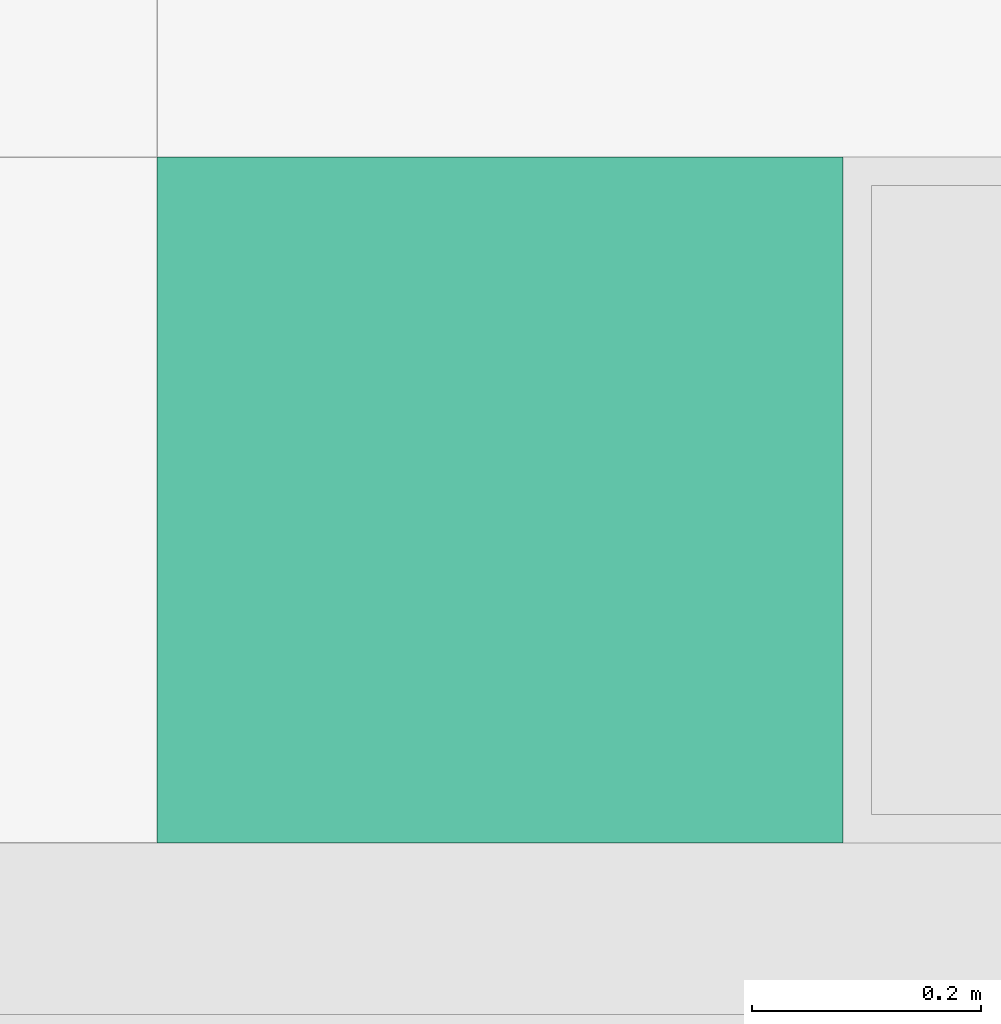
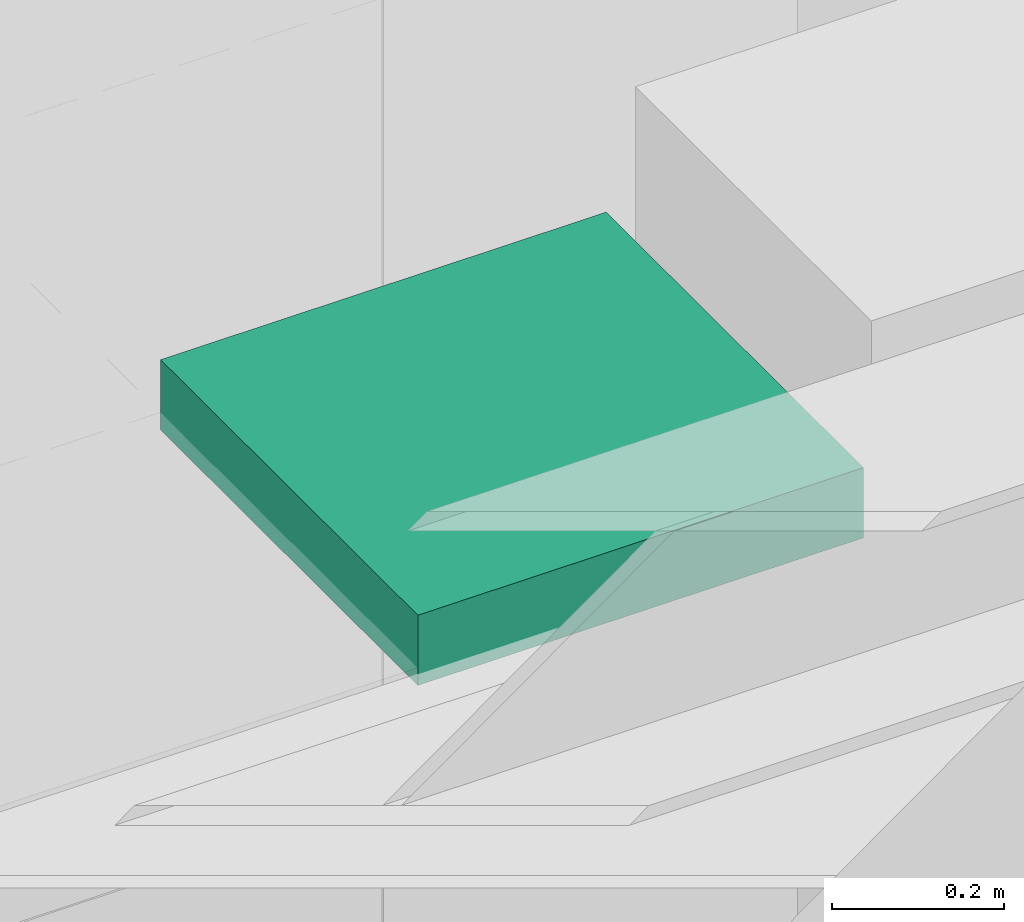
# One storey, part 199 of 347: 1 flow terminal.
"""IFC2X3 building model written with IfcOpenShell, lengths in millimetres."""

from ifc_helpers import new_model, entity, si_unit, converted_unit, derived_unit, money_unit, direction, frame, origin_with_axes, place, context, subcontext, project, spatial, open_shell, faceted_brep, surface_model, source, transform, mapped, type_object, type_shapes, element, save


model = new_model("IFC2X3")

# Units and contexts
model_context = context("Model", 3, precision=0.01, world=origin_with_axes(), true_north=direction((0.0, 1.0)))
plan_context = context("Plan", 3, precision=0.01, world=origin_with_axes(), true_north=direction((0.0, 1.0)))
body_context = subcontext(model_context, "Body", "Model", "MODEL_VIEW")
ifc_project = project(units=[si_unit("LENGTHUNIT", "METRE", prefix="MILLI"), si_unit("AREAUNIT", "SQUARE_METRE"), si_unit("VOLUMEUNIT", "CUBIC_METRE"), converted_unit("PLANEANGLEUNIT", "DEGREE", entity("IfcPlaneAngleMeasure", 0.0174532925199), si_unit("PLANEANGLEUNIT", "RADIAN"), dimensions=[0, 0, 0, 0, 0, 0, 0]), money_unit("EUR"), converted_unit("TIMEUNIT", "Year", entity("IfcTimeMeasure", 31556926.0), si_unit("TIMEUNIT", "SECOND"), dimensions=[0, 0, 1, 0, 0, 0, 0]), si_unit("MASSUNIT", "GRAM", prefix="KILO"), si_unit("THERMODYNAMICTEMPERATUREUNIT", "DEGREE_CELSIUS"), si_unit("LUMINOUSINTENSITYUNIT", "LUMEN"), si_unit("ENERGYUNIT", "JOULE", prefix="MEGA"), derived_unit("THERMALCONDUCTANCEUNIT", [(si_unit("POWERUNIT", "WATT"), 1), (si_unit("LENGTHUNIT", "METRE"), -1), (si_unit("THERMODYNAMICTEMPERATUREUNIT", "KELVIN"), -1)]), derived_unit("SPECIFICHEATCAPACITYUNIT", [(si_unit("ENERGYUNIT", "JOULE"), 1), (si_unit("MASSUNIT", "GRAM", prefix="KILO"), -1), (si_unit("THERMODYNAMICTEMPERATUREUNIT", "KELVIN"), -1)]), derived_unit("MASSDENSITYUNIT", [(si_unit("MASSUNIT", "GRAM", prefix="KILO"), 1), (si_unit("VOLUMEUNIT", "CUBIC_METRE"), -1)])], contexts=[model_context, plan_context])

# Site, building, storey
site_placement = place(None, origin_with_axes())
site = spatial("IfcSite", under=ifc_project, at=site_placement, Name="Site", CompositionType="ELEMENT")
building_placement = place(site_placement, origin_with_axes())
building = spatial("IfcBuilding", under=site, at=building_placement, Name="Naam gebouw", CompositionType="ELEMENT")
storey_placement = place(building_placement, origin_with_axes())
storey = spatial("IfcBuildingStorey", under=building, at=storey_placement, Name="begane grond", CompositionType="ELEMENT", Elevation=0.0)

# Flow terminal
lamp_type = type_object("IfcLampType", Name="TL plafond 25", PredefinedType="NOTDEFINED")
shared_shape = source(origin_with_axes(), body_context, "Body", "SurfaceModel", [
    faceted_brep([(0.0, 0.0, -100.0), (600.0, 0.0, -100.0), (600.0, 0.0, 0.0), (0.0, 0.0, 0.0), (0.0, 600.0, -100.0), (600.0, 600.0, -100.0), (40.0, 40.0, -100.0), (560.0, 40.0, -100.0), (560.0, 560.0, -100.0), (40.0, 560.0, -100.0), (600.0, 600.0, 0.0), (0.0, 600.0, 0.0), (40.0, 40.0, 0.0), (40.0, 560.0, 0.0), (560.0, 560.0, 0.0), (560.0, 40.0, 0.0)], [[[0, 1, 2, 3]], [[0, 4, 5, 1], [6, 7, 8, 9]], [[1, 5, 10, 2]], [[3, 2, 10, 11], [12, 13, 14, 15]], [[4, 0, 3, 11]], [[5, 4, 11, 10]], [[7, 6, 12, 15]], [[8, 7, 15, 14]], [[9, 8, 14, 13]], [[6, 9, 13, 12]]]),
    faceted_brep([(40.0, 40.0, -16.3333333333), (560.0, 40.0, -16.3333333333), (560.0, 40.0, 0.0), (40.0, 40.0, 0.0), (40.0, 560.0, -16.3333333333), (560.0, 560.0, -16.3333333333), (560.0, 560.0, 0.0), (40.0, 560.0, 0.0)], [[[0, 1, 2, 3]], [[0, 4, 5, 1]], [[1, 5, 6, 2]], [[3, 2, 6, 7]], [[4, 0, 3, 7]], [[5, 4, 7, 6]]]),
    surface_model("IfcShellBasedSurfaceModel", [(559.0, 41.0, -100.0), (40.0, 41.0, -100.0), (40.0, 559.0, -100.0), (559.0, 559.0, -100.0)], [open_shell([[[0, 1, 2, 3]]])]),
    faceted_brep([(40.0, 40.0, -100.0), (560.0, 40.0, -100.0), (560.0, 40.0, -60.0), (40.0, 40.0, -60.0), (40.0, 560.0, -100.0), (560.0, 560.0, -100.0), (41.0, 41.0, -100.0), (559.0, 41.0, -100.0), (559.0, 559.0, -100.0), (41.0, 559.0, -100.0), (560.0, 560.0, -60.0), (40.0, 560.0, -60.0), (41.0, 41.0, -60.0), (41.0, 559.0, -60.0), (559.0, 559.0, -60.0), (559.0, 41.0, -60.0)], [[[0, 1, 2, 3]], [[0, 4, 5, 1], [6, 7, 8, 9]], [[1, 5, 10, 2]], [[3, 2, 10, 11], [12, 13, 14, 15]], [[4, 0, 3, 11]], [[5, 4, 11, 10]], [[7, 6, 12, 15]], [[8, 7, 15, 14]], [[9, 8, 14, 13]], [[6, 9, 13, 12]]]),
    faceted_brep([(40.0, 144.0, -48.3333333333), (40.0, 149.740251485, -47.191526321), (560.0, 149.740251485, -47.191526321), (560.0, 144.0, -48.3333333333), (40.0, 138.259748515, -47.191526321), (40.0, 133.393398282, -43.9399350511), (40.0, 130.141807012, -39.0735848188), (40.0, 129.0, -33.3333333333), (40.0, 130.141807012, -27.5930818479), (40.0, 133.393398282, -22.7267316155), (40.0, 138.259748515, -19.4751403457), (40.0, 144.0, -18.3333333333), (40.0, 149.740251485, -19.4751403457), (40.0, 154.606601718, -22.7267316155), (40.0, 157.858192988, -27.5930818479), (40.0, 159.0, -33.3333333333), (40.0, 157.858192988, -39.0735848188), (40.0, 154.606601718, -43.9399350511), (40.0, 144.0, -46.3333333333), (40.0, 148.974884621, -45.343767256), (40.0, 153.192388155, -42.5257214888), (40.0, 156.010433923, -38.3082179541), (40.0, 157.0, -33.3333333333), (40.0, 156.010433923, -28.3584487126), (40.0, 153.192388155, -24.1409451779), (40.0, 148.974884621, -21.3228994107), (40.0, 144.0, -20.3333333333), (40.0, 139.025115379, -21.3228994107), (40.0, 134.807611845, -24.1409451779), (40.0, 131.989566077, -28.3584487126), (40.0, 131.0, -33.3333333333), (40.0, 131.989566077, -38.3082179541), (40.0, 134.807611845, -42.5257214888), (40.0, 139.025115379, -45.343767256), (560.0, 154.606601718, -43.9399350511), (560.0, 157.858192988, -39.0735848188), (560.0, 159.0, -33.3333333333), (560.0, 157.858192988, -27.5930818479), (560.0, 154.606601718, -22.7267316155), (560.0, 149.740251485, -19.4751403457), (560.0, 144.0, -18.3333333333), (560.0, 138.259748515, -19.4751403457), (560.0, 133.393398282, -22.7267316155), (560.0, 130.141807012, -27.5930818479), (560.0, 129.0, -33.3333333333), (560.0, 130.141807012, -39.0735848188), (560.0, 133.393398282, -43.9399350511), (560.0, 138.259748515, -47.191526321), (560.0, 144.0, -46.3333333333), (560.0, 139.025115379, -45.343767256), (560.0, 134.807611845, -42.5257214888), (560.0, 131.989566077, -38.3082179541), (560.0, 131.0, -33.3333333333), (560.0, 131.989566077, -28.3584487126), (560.0, 134.807611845, -24.1409451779), (560.0, 139.025115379, -21.3228994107), (560.0, 144.0, -20.3333333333), (560.0, 148.974884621, -21.3228994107), (560.0, 153.192388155, -24.1409451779), (560.0, 156.010433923, -28.3584487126), (560.0, 157.0, -33.3333333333), (560.0, 156.010433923, -38.3082179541), (560.0, 153.192388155, -42.5257214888), (560.0, 148.974884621, -45.343767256)], [[[0, 1, 2, 3]], [[0, 4, 5, 6, 7, 8, 9, 10, 11, 12, 13, 14, 15, 16, 17, 1], [18, 19, 20, 21, 22, 23, 24, 25, 26, 27, 28, 29, 30, 31, 32, 33]], [[1, 17, 34, 2]], [[3, 2, 34, 35, 36, 37, 38, 39, 40, 41, 42, 43, 44, 45, 46, 47], [48, 49, 50, 51, 52, 53, 54, 55, 56, 57, 58, 59, 60, 61, 62, 63]], [[4, 0, 3, 47]], [[5, 4, 47, 46]], [[6, 5, 46, 45]], [[7, 6, 45, 44]], [[8, 7, 44, 43]], [[9, 8, 43, 42]], [[10, 9, 42, 41]], [[11, 10, 41, 40]], [[12, 11, 40, 39]], [[13, 12, 39, 38]], [[14, 13, 38, 37]], [[15, 14, 37, 36]], [[16, 15, 36, 35]], [[17, 16, 35, 34]], [[19, 18, 48, 63]], [[20, 19, 63, 62]], [[21, 20, 62, 61]], [[22, 21, 61, 60]], [[23, 22, 60, 59]], [[24, 23, 59, 58]], [[25, 24, 58, 57]], [[26, 25, 57, 56]], [[27, 26, 56, 55]], [[28, 27, 55, 54]], [[29, 28, 54, 53]], [[30, 29, 53, 52]], [[31, 30, 52, 51]], [[32, 31, 51, 50]], [[33, 32, 50, 49]], [[18, 33, 49, 48]]]),
    faceted_brep([(40.0, 248.0, -48.3333333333), (40.0, 253.740251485, -47.191526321), (560.0, 253.740251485, -47.191526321), (560.0, 248.0, -48.3333333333), (40.0, 242.259748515, -47.191526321), (40.0, 237.393398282, -43.9399350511), (40.0, 234.141807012, -39.0735848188), (40.0, 233.0, -33.3333333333), (40.0, 234.141807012, -27.5930818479), (40.0, 237.393398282, -22.7267316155), (40.0, 242.259748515, -19.4751403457), (40.0, 248.0, -18.3333333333), (40.0, 253.740251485, -19.4751403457), (40.0, 258.606601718, -22.7267316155), (40.0, 261.858192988, -27.5930818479), (40.0, 263.0, -33.3333333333), (40.0, 261.858192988, -39.0735848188), (40.0, 258.606601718, -43.9399350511), (40.0, 248.0, -46.3333333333), (40.0, 252.974884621, -45.343767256), (40.0, 257.192388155, -42.5257214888), (40.0, 260.010433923, -38.3082179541), (40.0, 261.0, -33.3333333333), (40.0, 260.010433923, -28.3584487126), (40.0, 257.192388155, -24.1409451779), (40.0, 252.974884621, -21.3228994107), (40.0, 248.0, -20.3333333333), (40.0, 243.025115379, -21.3228994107), (40.0, 238.807611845, -24.1409451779), (40.0, 235.989566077, -28.3584487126), (40.0, 235.0, -33.3333333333), (40.0, 235.989566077, -38.3082179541), (40.0, 238.807611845, -42.5257214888), (40.0, 243.025115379, -45.343767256), (560.0, 258.606601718, -43.9399350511), (560.0, 261.858192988, -39.0735848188), (560.0, 263.0, -33.3333333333), (560.0, 261.858192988, -27.5930818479), (560.0, 258.606601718, -22.7267316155), (560.0, 253.740251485, -19.4751403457), (560.0, 248.0, -18.3333333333), (560.0, 242.259748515, -19.4751403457), (560.0, 237.393398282, -22.7267316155), (560.0, 234.141807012, -27.5930818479), (560.0, 233.0, -33.3333333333), (560.0, 234.141807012, -39.0735848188), (560.0, 237.393398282, -43.9399350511), (560.0, 242.259748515, -47.191526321), (560.0, 248.0, -46.3333333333), (560.0, 243.025115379, -45.343767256), (560.0, 238.807611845, -42.5257214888), (560.0, 235.989566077, -38.3082179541), (560.0, 235.0, -33.3333333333), (560.0, 235.989566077, -28.3584487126), (560.0, 238.807611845, -24.1409451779), (560.0, 243.025115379, -21.3228994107), (560.0, 248.0, -20.3333333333), (560.0, 252.974884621, -21.3228994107), (560.0, 257.192388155, -24.1409451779), (560.0, 260.010433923, -28.3584487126), (560.0, 261.0, -33.3333333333), (560.0, 260.010433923, -38.3082179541), (560.0, 257.192388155, -42.5257214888), (560.0, 252.974884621, -45.343767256)], [[[0, 1, 2, 3]], [[0, 4, 5, 6, 7, 8, 9, 10, 11, 12, 13, 14, 15, 16, 17, 1], [18, 19, 20, 21, 22, 23, 24, 25, 26, 27, 28, 29, 30, 31, 32, 33]], [[1, 17, 34, 2]], [[3, 2, 34, 35, 36, 37, 38, 39, 40, 41, 42, 43, 44, 45, 46, 47], [48, 49, 50, 51, 52, 53, 54, 55, 56, 57, 58, 59, 60, 61, 62, 63]], [[4, 0, 3, 47]], [[5, 4, 47, 46]], [[6, 5, 46, 45]], [[7, 6, 45, 44]], [[8, 7, 44, 43]], [[9, 8, 43, 42]], [[10, 9, 42, 41]], [[11, 10, 41, 40]], [[12, 11, 40, 39]], [[13, 12, 39, 38]], [[14, 13, 38, 37]], [[15, 14, 37, 36]], [[16, 15, 36, 35]], [[17, 16, 35, 34]], [[19, 18, 48, 63]], [[20, 19, 63, 62]], [[21, 20, 62, 61]], [[22, 21, 61, 60]], [[23, 22, 60, 59]], [[24, 23, 59, 58]], [[25, 24, 58, 57]], [[26, 25, 57, 56]], [[27, 26, 56, 55]], [[28, 27, 55, 54]], [[29, 28, 54, 53]], [[30, 29, 53, 52]], [[31, 30, 52, 51]], [[32, 31, 51, 50]], [[33, 32, 50, 49]], [[18, 33, 49, 48]]]),
    faceted_brep([(40.0, 352.0, -48.3333333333), (40.0, 357.740251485, -47.191526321), (560.0, 357.740251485, -47.191526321), (560.0, 352.0, -48.3333333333), (40.0, 346.259748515, -47.191526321), (40.0, 341.393398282, -43.9399350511), (40.0, 338.141807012, -39.0735848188), (40.0, 337.0, -33.3333333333), (40.0, 338.141807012, -27.5930818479), (40.0, 341.393398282, -22.7267316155), (40.0, 346.259748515, -19.4751403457), (40.0, 352.0, -18.3333333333), (40.0, 357.740251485, -19.4751403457), (40.0, 362.606601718, -22.7267316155), (40.0, 365.858192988, -27.5930818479), (40.0, 367.0, -33.3333333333), (40.0, 365.858192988, -39.0735848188), (40.0, 362.606601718, -43.9399350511), (40.0, 352.0, -46.3333333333), (40.0, 356.974884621, -45.343767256), (40.0, 361.192388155, -42.5257214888), (40.0, 364.010433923, -38.3082179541), (40.0, 365.0, -33.3333333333), (40.0, 364.010433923, -28.3584487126), (40.0, 361.192388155, -24.1409451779), (40.0, 356.974884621, -21.3228994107), (40.0, 352.0, -20.3333333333), (40.0, 347.025115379, -21.3228994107), (40.0, 342.807611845, -24.1409451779), (40.0, 339.989566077, -28.3584487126), (40.0, 339.0, -33.3333333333), (40.0, 339.989566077, -38.3082179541), (40.0, 342.807611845, -42.5257214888), (40.0, 347.025115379, -45.343767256), (560.0, 362.606601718, -43.9399350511), (560.0, 365.858192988, -39.0735848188), (560.0, 367.0, -33.3333333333), (560.0, 365.858192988, -27.5930818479), (560.0, 362.606601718, -22.7267316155), (560.0, 357.740251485, -19.4751403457), (560.0, 352.0, -18.3333333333), (560.0, 346.259748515, -19.4751403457), (560.0, 341.393398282, -22.7267316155), (560.0, 338.141807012, -27.5930818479), (560.0, 337.0, -33.3333333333), (560.0, 338.141807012, -39.0735848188), (560.0, 341.393398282, -43.9399350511), (560.0, 346.259748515, -47.191526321), (560.0, 352.0, -46.3333333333), (560.0, 347.025115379, -45.343767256), (560.0, 342.807611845, -42.5257214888), (560.0, 339.989566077, -38.3082179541), (560.0, 339.0, -33.3333333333), (560.0, 339.989566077, -28.3584487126), (560.0, 342.807611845, -24.1409451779), (560.0, 347.025115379, -21.3228994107), (560.0, 352.0, -20.3333333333), (560.0, 356.974884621, -21.3228994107), (560.0, 361.192388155, -24.1409451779), (560.0, 364.010433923, -28.3584487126), (560.0, 365.0, -33.3333333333), (560.0, 364.010433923, -38.3082179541), (560.0, 361.192388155, -42.5257214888), (560.0, 356.974884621, -45.343767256)], [[[0, 1, 2, 3]], [[0, 4, 5, 6, 7, 8, 9, 10, 11, 12, 13, 14, 15, 16, 17, 1], [18, 19, 20, 21, 22, 23, 24, 25, 26, 27, 28, 29, 30, 31, 32, 33]], [[1, 17, 34, 2]], [[3, 2, 34, 35, 36, 37, 38, 39, 40, 41, 42, 43, 44, 45, 46, 47], [48, 49, 50, 51, 52, 53, 54, 55, 56, 57, 58, 59, 60, 61, 62, 63]], [[4, 0, 3, 47]], [[5, 4, 47, 46]], [[6, 5, 46, 45]], [[7, 6, 45, 44]], [[8, 7, 44, 43]], [[9, 8, 43, 42]], [[10, 9, 42, 41]], [[11, 10, 41, 40]], [[12, 11, 40, 39]], [[13, 12, 39, 38]], [[14, 13, 38, 37]], [[15, 14, 37, 36]], [[16, 15, 36, 35]], [[17, 16, 35, 34]], [[19, 18, 48, 63]], [[20, 19, 63, 62]], [[21, 20, 62, 61]], [[22, 21, 61, 60]], [[23, 22, 60, 59]], [[24, 23, 59, 58]], [[25, 24, 58, 57]], [[26, 25, 57, 56]], [[27, 26, 56, 55]], [[28, 27, 55, 54]], [[29, 28, 54, 53]], [[30, 29, 53, 52]], [[31, 30, 52, 51]], [[32, 31, 51, 50]], [[33, 32, 50, 49]], [[18, 33, 49, 48]]]),
    faceted_brep([(40.0, 456.0, -48.3333333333), (40.0, 461.740251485, -47.191526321), (560.0, 461.740251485, -47.191526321), (560.0, 456.0, -48.3333333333), (40.0, 450.259748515, -47.191526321), (40.0, 445.393398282, -43.9399350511), (40.0, 442.141807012, -39.0735848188), (40.0, 441.0, -33.3333333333), (40.0, 442.141807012, -27.5930818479), (40.0, 445.393398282, -22.7267316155), (40.0, 450.259748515, -19.4751403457), (40.0, 456.0, -18.3333333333), (40.0, 461.740251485, -19.4751403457), (40.0, 466.606601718, -22.7267316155), (40.0, 469.858192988, -27.5930818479), (40.0, 471.0, -33.3333333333), (40.0, 469.858192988, -39.0735848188), (40.0, 466.606601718, -43.9399350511), (40.0, 456.0, -46.3333333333), (40.0, 460.974884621, -45.343767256), (40.0, 465.192388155, -42.5257214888), (40.0, 468.010433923, -38.3082179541), (40.0, 469.0, -33.3333333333), (40.0, 468.010433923, -28.3584487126), (40.0, 465.192388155, -24.1409451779), (40.0, 460.974884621, -21.3228994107), (40.0, 456.0, -20.3333333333), (40.0, 451.025115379, -21.3228994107), (40.0, 446.807611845, -24.1409451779), (40.0, 443.989566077, -28.3584487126), (40.0, 443.0, -33.3333333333), (40.0, 443.989566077, -38.3082179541), (40.0, 446.807611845, -42.5257214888), (40.0, 451.025115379, -45.343767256), (560.0, 466.606601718, -43.9399350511), (560.0, 469.858192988, -39.0735848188), (560.0, 471.0, -33.3333333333), (560.0, 469.858192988, -27.5930818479), (560.0, 466.606601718, -22.7267316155), (560.0, 461.740251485, -19.4751403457), (560.0, 456.0, -18.3333333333), (560.0, 450.259748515, -19.4751403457), (560.0, 445.393398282, -22.7267316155), (560.0, 442.141807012, -27.5930818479), (560.0, 441.0, -33.3333333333), (560.0, 442.141807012, -39.0735848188), (560.0, 445.393398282, -43.9399350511), (560.0, 450.259748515, -47.191526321), (560.0, 456.0, -46.3333333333), (560.0, 451.025115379, -45.343767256), (560.0, 446.807611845, -42.5257214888), (560.0, 443.989566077, -38.3082179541), (560.0, 443.0, -33.3333333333), (560.0, 443.989566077, -28.3584487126), (560.0, 446.807611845, -24.1409451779), (560.0, 451.025115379, -21.3228994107), (560.0, 456.0, -20.3333333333), (560.0, 460.974884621, -21.3228994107), (560.0, 465.192388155, -24.1409451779), (560.0, 468.010433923, -28.3584487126), (560.0, 469.0, -33.3333333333), (560.0, 468.010433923, -38.3082179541), (560.0, 465.192388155, -42.5257214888), (560.0, 460.974884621, -45.343767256)], [[[0, 1, 2, 3]], [[0, 4, 5, 6, 7, 8, 9, 10, 11, 12, 13, 14, 15, 16, 17, 1], [18, 19, 20, 21, 22, 23, 24, 25, 26, 27, 28, 29, 30, 31, 32, 33]], [[1, 17, 34, 2]], [[3, 2, 34, 35, 36, 37, 38, 39, 40, 41, 42, 43, 44, 45, 46, 47], [48, 49, 50, 51, 52, 53, 54, 55, 56, 57, 58, 59, 60, 61, 62, 63]], [[4, 0, 3, 47]], [[5, 4, 47, 46]], [[6, 5, 46, 45]], [[7, 6, 45, 44]], [[8, 7, 44, 43]], [[9, 8, 43, 42]], [[10, 9, 42, 41]], [[11, 10, 41, 40]], [[12, 11, 40, 39]], [[13, 12, 39, 38]], [[14, 13, 38, 37]], [[15, 14, 37, 36]], [[16, 15, 36, 35]], [[17, 16, 35, 34]], [[19, 18, 48, 63]], [[20, 19, 63, 62]], [[21, 20, 62, 61]], [[22, 21, 61, 60]], [[23, 22, 60, 59]], [[24, 23, 59, 58]], [[25, 24, 58, 57]], [[26, 25, 57, 56]], [[27, 26, 56, 55]], [[28, 27, 55, 54]], [[29, 28, 54, 53]], [[30, 29, 53, 52]], [[31, 30, 52, 51]], [[32, 31, 51, 50]], [[33, 32, 50, 49]], [[18, 33, 49, 48]]]),
])
type_shapes(lamp_type, [shared_shape])
flow_terminal_placement = place(storey_placement, frame((25200.0, 5599.99997201, 3295.0), z_axis=(0.0, 0.0, 1.0), x_axis=(1.0, 0.0, 0.0)))
element("IfcFlowTerminal", 1, at=flow_terminal_placement, inside=storey, type_object=lamp_type, Name="63_Lamp-x", ObjectType="Lamp", context=body_context, shape_type="MappedRepresentation", body=[
    mapped(shared_shape, transform((0.0, 0.0, 0.0))),
])

save(model, "model.ifc")
